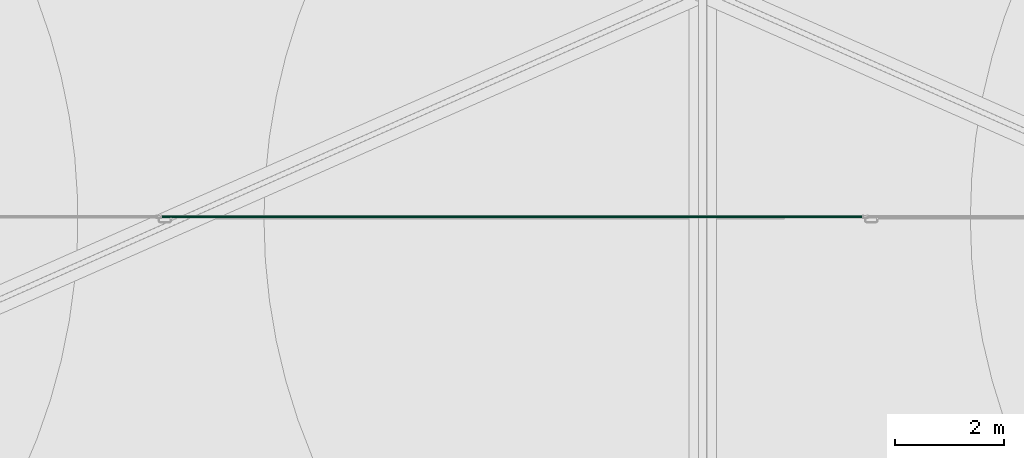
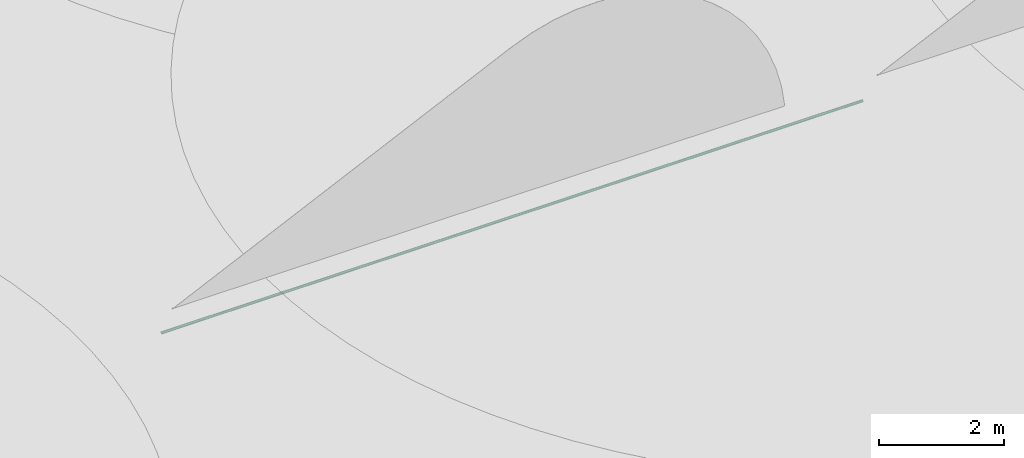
# One storey, part 13 of 166: 1 flow segment.
"""IFC2X3 building model written with IfcOpenShell, lengths in metres."""

from ifc_helpers import new_model, entity, si_unit, converted_unit, direction, frame, frame_2d, origin, place, context, subcontext, project, spatial, circle, extrude, type_object, element, save


model = new_model("IFC2X3")

# Units and contexts
model_context = context("Model", 3, precision=1e-05, world=origin(), true_north=direction((6.123233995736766e-17, 1.0)))
body_context = subcontext(model_context, "Body", "Model", "MODEL_VIEW")
ifc_project = project(units=[si_unit("LENGTHUNIT", "METRE"), converted_unit("PLANEANGLEUNIT", "DEGREE", entity("IfcPlaneAngleMeasure", 0.017453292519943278), si_unit("PLANEANGLEUNIT", "RADIAN"), dimensions=[0, 0, 0, 0, 0, 0, 0]), si_unit("AREAUNIT", "SQUARE_METRE")], contexts=[model_context])

# Site, building, storey
site_placement = place(None, origin())
site = spatial("IfcSite", under=ifc_project, at=site_placement, Name="Default", CompositionType="ELEMENT")
building_placement = place(site_placement, origin())
building = spatial("IfcBuilding", under=site, at=building_placement, Name="CASA DE ACOLHIDA PARA IDOSOS", CompositionType="ELEMENT")
storey_placement = place(building_placement, frame((0.0, 0.0, -1.7499999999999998)))
storey = spatial("IfcBuildingStorey", under=building, at=storey_placement, Name="IMPLANTAÇÃO DRENAGEM", CompositionType="ELEMENT", Elevation=-1.7499999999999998)

# Flow segment
pipe_segment_type = type_object("IfcPipeSegmentType", Name="Tipos de tubos:AF_Tubo Marrom Soldável", PredefinedType="NOTDEFINED")
flow_segment_placement = place(storey_placement, origin())
element("IfcFlowSegment", 1, at=flow_segment_placement, inside=storey, type_object=pipe_segment_type, Name="Tipos de tubos:AF_Tubo Marrom Soldável", ObjectType="Tipos de tubos:AF_Tubo Marrom Soldável", context=body_context, shape_type="SweptSolid", body=[
    extrude(circle(Radius=0.025, at=frame_2d((0.0, -2.707167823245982e-16), x_axis=(1.0, 0.0))), frame((-31.958348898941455, 9.654942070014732, -0.19999999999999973), z_axis=(1.0, 0.0, 0.0), x_axis=(0.0, -1.0, 0.0)), (0.0, 0.0, 1.0), 12.9348),
])

save(model, "model.ifc")
